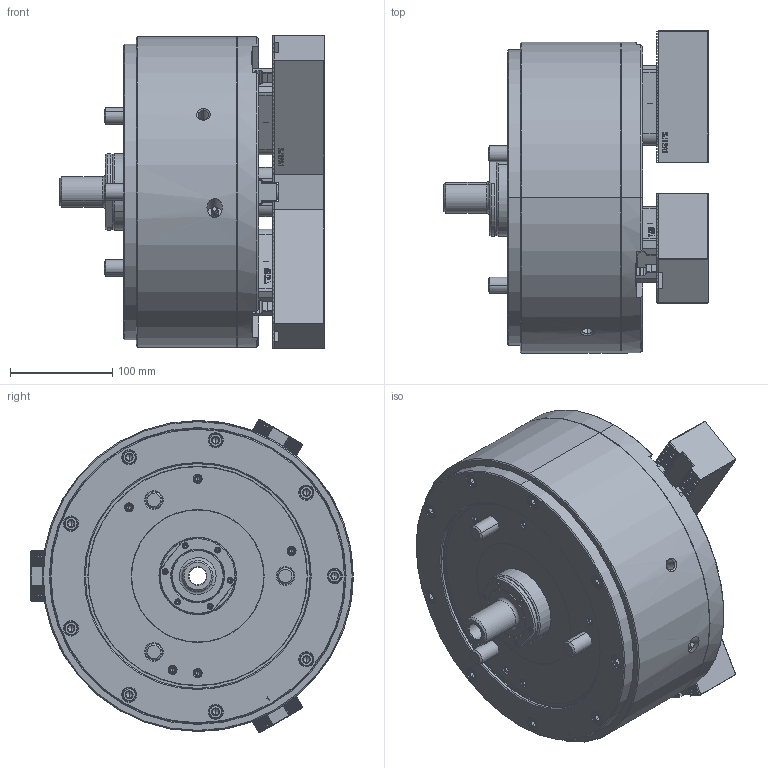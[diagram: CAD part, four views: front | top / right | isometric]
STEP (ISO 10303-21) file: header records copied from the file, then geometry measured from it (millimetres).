
FILE_DESCRIPTION (( 'STEP AP214' ), '1' );
FILE_NAME ('DL212_UC_ID.STEP', '2022-09-08T04:51:15', ( '' ), ( '' ), 'SwSTEP 2.0', 'SolidWorks 2020', '' );
FILE_SCHEMA (( 'AUTOMOTIVE_DESIGN' ));
Length unit declared in the file: millimetre
Products named in the file (5): DL212_UC_ID; 61P458879; 結合DLD212_UC_ID^DL212; 0030114040; 61P851659
Assembly tree (13 placements, depth 2):
  DL212_UC_ID
    61P851659  x3
    61P458879  x3
    0030114040  x6
    結合DLD212_UC_ID^DL212
Bounding box: 258.3 x 315.12 x 306.94 mm (x, y, z)
Volume: 10122913.8 mm3; surface area: 599072.8 mm2
Topology: 13 solids, 60 shells, 6734 faces, 18524 edges, 12043 vertices
Faces by surface type: plane 4397, cylinder 888, cone 764, bspline 663, torus 22
Entity records: 186908 total; most frequent: CARTESIAN_POINT 61448, ORIENTED_EDGE 28184, DIRECTION 22430, EDGE_CURVE 14092, LINE 9762, VECTOR 9762, VERTEX_POINT 9232, AXIS2_PLACEMENT_3D 6334
